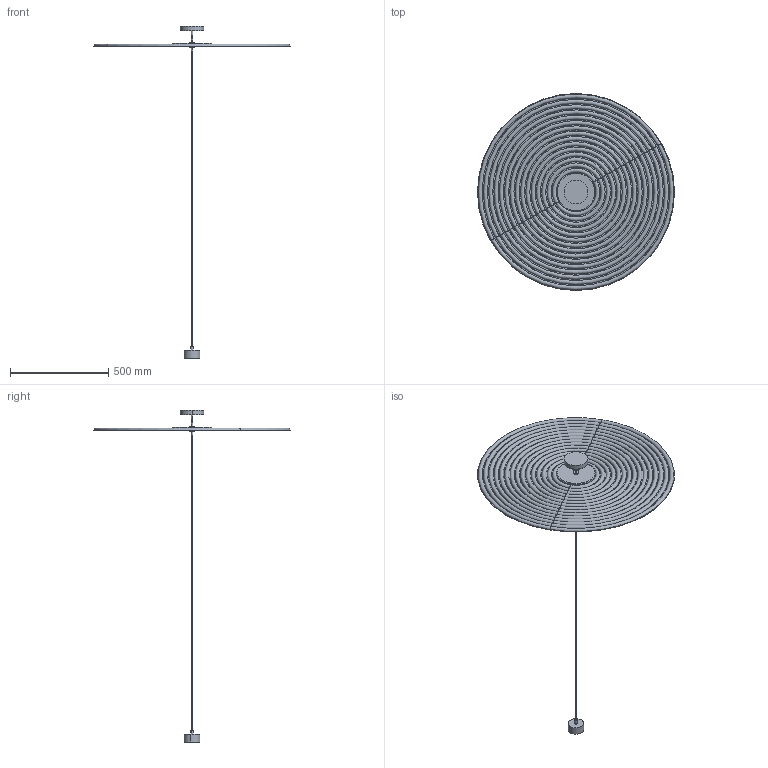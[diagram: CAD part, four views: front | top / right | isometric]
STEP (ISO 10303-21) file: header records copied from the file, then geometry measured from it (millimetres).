
FILE_DESCRIPTION (( 'STEP AP214' ), '1' );
FILE_NAME ('TICO_C1095_100.STEP', '2025-01-17T15:41:43', ( '' ), ( '' ), 'SwSTEP 2.0', 'SolidWorks 2018', '' );
FILE_SCHEMA (( 'AUTOMOTIVE_DESIGN' ));
Length unit declared in the file: millimetre
Products named in the file (1): TICO_C1095_100
Bounding box: 1001.71 x 1001.71 x 1688 mm (x, y, z)
Volume: 2075742.1 mm3; surface area: 2366758.3 mm2
Topology: 11 solids, 11 shells, 312 faces, 726 edges, 439 vertices
Faces by surface type: cylinder 145, torus 126, plane 31, bspline 10
Entity records: 19172 total; most frequent: CARTESIAN_POINT 9044, ORIENTED_EDGE 1452, DIRECTION 1397, EDGE_CURVE 726, AXIS2_PLACEMENT_3D 622, VERTEX_POINT 439, UNCERTAINTY_MEASURE_WITH_UNIT 325, COLOUR_RGB 324
